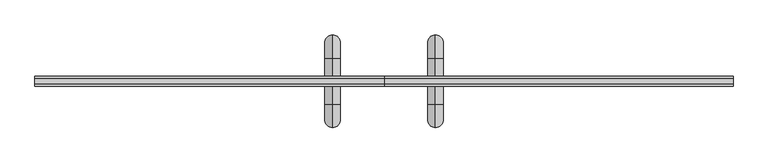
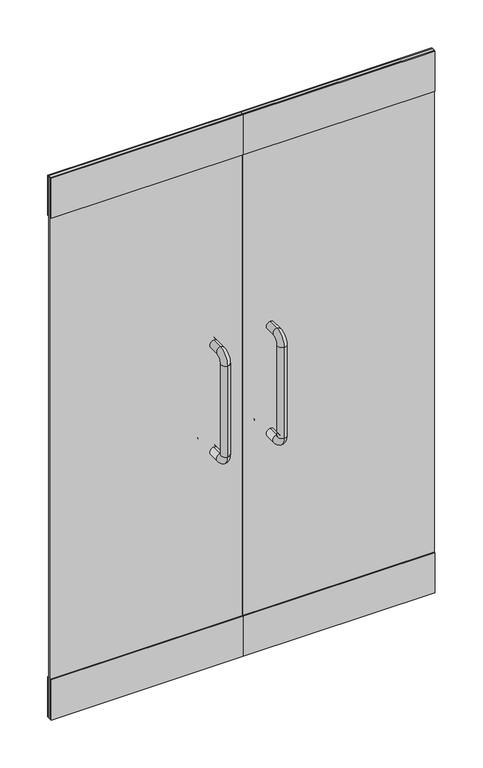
"""IFC4 building model written with IfcOpenShell, lengths in millimetres: plate geometry, 両開き - ヒンジ2 : ガラス パネル."""

from ifc_helpers import new_model, si_unit, point, frame, origin, origin_with_axes, place, context, project, spatial, polyline, circle_curve, ellipse_curve, trimmed, outline, extrude, source, transform, mapped, element, save
from ifc_brep_helpers import cylinder_surface, revolved_surface, advanced_brep


def plate_e66cd56a(model_context):
    return source(origin(), model_context, "Body", "SolidModel", [
        advanced_brep(
        [(100.0, 60.0, 830.0), (100.0, 45.0, 815.0), (100.0, 45.0, 785.0), (100.0, 90.0, 830.0), (100.0, 90.0, 1170.0), (100.0, 60.0, 1170.0), (100.0, 45.0, 1185.0), (100.0, 45.0, 1215.0), (100.0, -45.0, 1215.0), (100.0, -45.0, 1185.0), (100.0, -60.0, 1170.0), (100.0, -90.0, 1170.0), (100.0, -90.0, 830.0), (100.0, -60.0, 830.0), (100.0, -45.0, 815.0), (100.0, -45.0, 785.0)],
        [
            (0, 1, circle_curve(frame((100.0, 45.0, 830.0), z_axis=(-1.0, 0.0, 0.0), x_axis=(0.0, 0.0, -1.0)), 15.0)),
            (1, 2, circle_curve(frame((100.0, 45.0, 800.0), z_axis=(0.0, 1.0, 0.0), x_axis=(0.0, 0.0, 1.0)), 15.0)),
            (2, 3, circle_curve(frame((100.0, 45.0, 830.0), z_axis=(1.0, 0.0, 0.0), x_axis=(0.0, 0.0, -1.0)), 45.0)),
            (3, 0, circle_curve(frame((100.0, 75.0, 830.0), z_axis=(0.0, 0.0, -1.0), x_axis=(0.0, -1.0, 0.0)), 15.0)),
            (2, 1, circle_curve(frame((100.0, 45.0, 800.0), z_axis=(0.0, 1.0, 0.0), x_axis=(0.0, 0.0, 1.0)), 15.0)),
            (0, 3, circle_curve(frame((100.0, 75.0, 830.0), z_axis=(0.0, 0.0, -1.0), x_axis=(0.0, -1.0, 0.0)), 15.0)),
            (3, 4),
            (4, 5, circle_curve(frame((100.0, 75.0, 1170.0), z_axis=(0.0, 0.0, -1.0), x_axis=(0.0, -1.0, 0.0)), 15.0)),
            (5, 0),
            (5, 4, circle_curve(frame((100.0, 75.0, 1170.0), z_axis=(0.0, 0.0, -1.0), x_axis=(0.0, -1.0, 0.0)), 15.0)),
            (6, 5, circle_curve(frame((100.0, 45.0, 1170.0), z_axis=(-1.0, 0.0, 0.0), x_axis=(0.0, 1.0, 0.0)), 15.0)),
            (4, 7, circle_curve(frame((100.0, 45.0, 1170.0), z_axis=(1.0, 0.0, 0.0), x_axis=(0.0, 1.0, 0.0)), 45.0)),
            (7, 6, circle_curve(frame((100.0, 45.0, 1200.0), z_axis=(0.0, 1.0, 0.0), x_axis=(0.0, 0.0, -1.0)), 15.0)),
            (6, 7, circle_curve(frame((100.0, 45.0, 1200.0), z_axis=(0.0, 1.0, 0.0), x_axis=(0.0, 0.0, -1.0)), 15.0)),
            (7, 8),
            (8, 9, circle_curve(frame((100.0, -45.0, 1200.0), z_axis=(0.0, 1.0, 0.0), x_axis=(0.0, 0.0, -1.0)), 15.0)),
            (9, 6),
            (9, 8, circle_curve(frame((100.0, -45.0, 1200.0), z_axis=(0.0, 1.0, 0.0), x_axis=(0.0, 0.0, -1.0)), 15.0)),
            (10, 9, circle_curve(frame((100.0, -45.0, 1170.0), z_axis=(-1.0, 0.0, 0.0), x_axis=(0.0, 0.0, 1.0)), 15.0)),
            (8, 11, circle_curve(frame((100.0, -45.0, 1170.0), z_axis=(1.0, 0.0, 0.0), x_axis=(0.0, 0.0, 1.0)), 45.0)),
            (11, 10, circle_curve(frame((100.0, -75.0, 1170.0), z_axis=(0.0, 0.0, 1.0), x_axis=(0.0, 1.0, 0.0)), 15.0)),
            (10, 11, circle_curve(frame((100.0, -75.0, 1170.0), z_axis=(0.0, 0.0, 1.0), x_axis=(0.0, 1.0, 0.0)), 15.0)),
            (11, 12),
            (12, 13, circle_curve(frame((100.0, -75.0, 830.0), z_axis=(0.0, 0.0, 1.0), x_axis=(0.0, 1.0, 0.0)), 15.0)),
            (13, 10),
            (13, 12, circle_curve(frame((100.0, -75.0, 830.0), z_axis=(0.0, 0.0, 1.0), x_axis=(0.0, 1.0, 0.0)), 15.0)),
            (14, 13, circle_curve(frame((100.0, -45.0, 830.0), z_axis=(-1.0, 0.0, 0.0), x_axis=(0.0, -1.0, 0.0)), 15.0)),
            (12, 15, circle_curve(frame((100.0, -45.0, 830.0), z_axis=(1.0, 0.0, 0.0), x_axis=(0.0, -1.0, 0.0)), 45.0)),
            (15, 14, circle_curve(frame((100.0, -45.0, 800.0), z_axis=(0.0, -1.0, 0.0), x_axis=(0.0, 0.0, 1.0)), 15.0)),
            (14, 15, circle_curve(frame((100.0, -45.0, 800.0), z_axis=(0.0, -1.0, 0.0), x_axis=(0.0, 0.0, 1.0)), 15.0)),
            (15, 2),
            (1, 14),
        ],
        [
            revolved_surface(trimmed(ellipse_curve(frame((100.0, 45.0, 800.0), z_axis=(0.0, -1.0, 0.0), x_axis=(0.0, 0.0, 1.0)), 15.0, 15.0), [point((100.0, 45.0, 785.0))], [point((100.0, 45.0, 815.0))], True, "CARTESIAN"), (100.0, 45.0, 830.0), (1.0, 0.0, 0.0)),
            revolved_surface(trimmed(ellipse_curve(frame((100.0, 45.0, 800.0), z_axis=(0.0, -1.0, 0.0), x_axis=(0.0, 0.0, 1.0)), 15.0, 15.0), [point((100.0, 45.0, 815.0))], [point((100.0, 45.0, 785.0))], True, "CARTESIAN"), (100.0, 45.0, 830.0), (1.0, 0.0, 0.0)),
            cylinder_surface(frame((100.0, 75.0, 830.0), z_axis=(0.0, 0.0, -1.0), x_axis=(0.0, -1.0, 0.0)), 15.0),
            revolved_surface(trimmed(ellipse_curve(frame((100.0, 75.0, 1170.0), z_axis=(0.0, 0.0, -1.0), x_axis=(0.0, -1.0, 0.0)), 15.0, 15.0), [point((100.0, 90.0, 1170.0))], [point((100.0, 60.0, 1170.0))], True, "CARTESIAN"), (100.0, 45.0, 1170.0), (1.0, 0.0, 0.0)),
            revolved_surface(trimmed(ellipse_curve(frame((100.0, 75.0, 1170.0), z_axis=(0.0, 0.0, -1.0), x_axis=(0.0, -1.0, 0.0)), 15.0, 15.0), [point((100.0, 60.0, 1170.0))], [point((100.0, 90.0, 1170.0))], True, "CARTESIAN"), (100.0, 45.0, 1170.0), (1.0, 0.0, 0.0)),
            cylinder_surface(frame((100.0, 45.0, 1200.0), z_axis=(0.0, 1.0, 0.0), x_axis=(0.0, 0.0, -1.0)), 15.0),
            revolved_surface(trimmed(ellipse_curve(frame((100.0, -45.0, 1200.0), z_axis=(0.0, 1.0, 0.0), x_axis=(0.0, 0.0, -1.0)), 15.0, 15.0), [point((100.0, -45.0, 1215.0))], [point((100.0, -45.0, 1185.0))], True, "CARTESIAN"), (100.0, -45.0, 1170.0), (1.0, 0.0, 0.0)),
            revolved_surface(trimmed(ellipse_curve(frame((100.0, -45.0, 1200.0), z_axis=(0.0, 1.0, 0.0), x_axis=(0.0, 0.0, -1.0)), 15.0, 15.0), [point((100.0, -45.0, 1185.0))], [point((100.0, -45.0, 1215.0))], True, "CARTESIAN"), (100.0, -45.0, 1170.0), (1.0, 0.0, 0.0)),
            cylinder_surface(frame((100.0, -75.0, 1170.0), z_axis=(0.0, 0.0, 1.0), x_axis=(0.0, 1.0, 0.0)), 15.0),
            revolved_surface(trimmed(ellipse_curve(frame((100.0, -75.0, 830.0), z_axis=(0.0, 0.0, 1.0), x_axis=(0.0, 1.0, 0.0)), 15.0, 15.0), [point((100.0, -90.0, 830.0))], [point((100.0, -60.0, 830.0))], True, "CARTESIAN"), (100.0, -45.0, 830.0), (1.0, 0.0, 0.0)),
            revolved_surface(trimmed(ellipse_curve(frame((100.0, -75.0, 830.0), z_axis=(0.0, 0.0, 1.0), x_axis=(0.0, 1.0, 0.0)), 15.0, 15.0), [point((100.0, -60.0, 830.0))], [point((100.0, -90.0, 830.0))], True, "CARTESIAN"), (100.0, -45.0, 830.0), (1.0, 0.0, 0.0)),
            cylinder_surface(frame((100.0, -45.0, 800.0), z_axis=(0.0, -1.0, 0.0), x_axis=(0.0, 0.0, 1.0)), 15.0),
        ],
        [
            (0, [[1, 2, 3, 4]]),
            (1, [[-3, 5, -1, 6]]),
            (2, [[-4, 7, 8, 9]]),
            (2, [[-6, -9, 10, -7]]),
            (3, [[11, -8, 12, 13]]),
            (4, [[-12, -10, -11, 14]]),
            (5, [[-13, 15, 16, 17]]),
            (5, [[-14, -17, 18, -15]]),
            (6, [[19, -16, 20, 21]]),
            (7, [[-20, -18, -19, 22]]),
            (8, [[-21, 23, 24, 25]]),
            (8, [[-22, -25, 26, -23]]),
            (9, [[27, -24, 28, 29]]),
            (10, [[-28, -26, -27, 30]]),
            (11, [[-29, 31, -2, 32]]),
            (11, [[-30, -32, -5, -31]]),
        ],
    ),
        advanced_brep(
        [(-100.0, 60.0, 830.0), (-100.0, 45.0, 815.0), (-100.0, 45.0, 785.0), (-100.0, 90.0, 830.0), (-100.0, 90.0, 1170.0), (-100.0, 60.0, 1170.0), (-100.0, 45.0, 1185.0), (-100.0, 45.0, 1215.0), (-100.0, -45.0, 1215.0), (-100.0, -45.0, 1185.0), (-100.0, -60.0, 1170.0), (-100.0, -90.0, 1170.0), (-100.0, -90.0, 830.0), (-100.0, -60.0, 830.0), (-100.0, -45.0, 815.0), (-100.0, -45.0, 785.0)],
        [
            (0, 1, circle_curve(frame((-100.0, 45.0, 830.0), z_axis=(-1.0, 0.0, 0.0), x_axis=(0.0, 0.0, -1.0)), 15.0)),
            (1, 2, circle_curve(frame((-100.0, 45.0, 800.0), z_axis=(0.0, 1.0, 0.0), x_axis=(0.0, 0.0, 1.0)), 15.0)),
            (2, 3, circle_curve(frame((-100.0, 45.0, 830.0), z_axis=(1.0, 0.0, 0.0), x_axis=(0.0, 0.0, -1.0)), 45.0)),
            (3, 0, circle_curve(frame((-100.0, 75.0, 830.0), z_axis=(0.0, 0.0, -1.0), x_axis=(0.0, -1.0, 0.0)), 15.0)),
            (2, 1, circle_curve(frame((-100.0, 45.0, 800.0), z_axis=(0.0, 1.0, 0.0), x_axis=(0.0, 0.0, 1.0)), 15.0)),
            (0, 3, circle_curve(frame((-100.0, 75.0, 830.0), z_axis=(0.0, 0.0, -1.0), x_axis=(0.0, -1.0, 0.0)), 15.0)),
            (3, 4),
            (4, 5, circle_curve(frame((-100.0, 75.0, 1170.0), z_axis=(0.0, 0.0, -1.0), x_axis=(0.0, -1.0, 0.0)), 15.0)),
            (5, 0),
            (5, 4, circle_curve(frame((-100.0, 75.0, 1170.0), z_axis=(0.0, 0.0, -1.0), x_axis=(0.0, -1.0, 0.0)), 15.0)),
            (6, 5, circle_curve(frame((-100.0, 45.0, 1170.0), z_axis=(-1.0, 0.0, 0.0), x_axis=(0.0, 1.0, 0.0)), 15.0)),
            (4, 7, circle_curve(frame((-100.0, 45.0, 1170.0), z_axis=(1.0, 0.0, 0.0), x_axis=(0.0, 1.0, 0.0)), 45.0)),
            (7, 6, circle_curve(frame((-100.0, 45.0, 1200.0), z_axis=(0.0, 1.0, 0.0), x_axis=(0.0, 0.0, -1.0)), 15.0)),
            (6, 7, circle_curve(frame((-100.0, 45.0, 1200.0), z_axis=(0.0, 1.0, 0.0), x_axis=(0.0, 0.0, -1.0)), 15.0)),
            (7, 8),
            (8, 9, circle_curve(frame((-100.0, -45.0, 1200.0), z_axis=(0.0, 1.0, 0.0), x_axis=(0.0, 0.0, -1.0)), 15.0)),
            (9, 6),
            (9, 8, circle_curve(frame((-100.0, -45.0, 1200.0), z_axis=(0.0, 1.0, 0.0), x_axis=(0.0, 0.0, -1.0)), 15.0)),
            (10, 9, circle_curve(frame((-100.0, -45.0, 1170.0), z_axis=(-1.0, 0.0, 0.0), x_axis=(0.0, 0.0, 1.0)), 15.0)),
            (8, 11, circle_curve(frame((-100.0, -45.0, 1170.0), z_axis=(1.0, 0.0, 0.0), x_axis=(0.0, 0.0, 1.0)), 45.0)),
            (11, 10, circle_curve(frame((-100.0, -75.0, 1170.0), z_axis=(0.0, 0.0, 1.0), x_axis=(0.0, 1.0, 0.0)), 15.0)),
            (10, 11, circle_curve(frame((-100.0, -75.0, 1170.0), z_axis=(0.0, 0.0, 1.0), x_axis=(0.0, 1.0, 0.0)), 15.0)),
            (11, 12),
            (12, 13, circle_curve(frame((-100.0, -75.0, 830.0), z_axis=(0.0, 0.0, 1.0), x_axis=(0.0, 1.0, 0.0)), 15.0)),
            (13, 10),
            (13, 12, circle_curve(frame((-100.0, -75.0, 830.0), z_axis=(0.0, 0.0, 1.0), x_axis=(0.0, 1.0, 0.0)), 15.0)),
            (14, 13, circle_curve(frame((-100.0, -45.0, 830.0), z_axis=(-1.0, 0.0, 0.0), x_axis=(0.0, -1.0, 0.0)), 15.0)),
            (12, 15, circle_curve(frame((-100.0, -45.0, 830.0), z_axis=(1.0, 0.0, 0.0), x_axis=(0.0, -1.0, 0.0)), 45.0)),
            (15, 14, circle_curve(frame((-100.0, -45.0, 800.0), z_axis=(0.0, -1.0, 0.0), x_axis=(0.0, 0.0, 1.0)), 15.0)),
            (14, 15, circle_curve(frame((-100.0, -45.0, 800.0), z_axis=(0.0, -1.0, 0.0), x_axis=(0.0, 0.0, 1.0)), 15.0)),
            (15, 2),
            (1, 14),
        ],
        [
            revolved_surface(trimmed(ellipse_curve(frame((-100.0, 45.0, 800.0), z_axis=(0.0, -1.0, 0.0), x_axis=(0.0, 0.0, 1.0)), 15.0, 15.0), [point((-100.0, 45.0, 785.0))], [point((-100.0, 45.0, 815.0))], True, "CARTESIAN"), (-100.0, 45.0, 830.0), (1.0, 0.0, 0.0)),
            revolved_surface(trimmed(ellipse_curve(frame((-100.0, 45.0, 800.0), z_axis=(0.0, -1.0, 0.0), x_axis=(0.0, 0.0, 1.0)), 15.0, 15.0), [point((-100.0, 45.0, 815.0))], [point((-100.0, 45.0, 785.0))], True, "CARTESIAN"), (-100.0, 45.0, 830.0), (1.0, 0.0, 0.0)),
            cylinder_surface(frame((-100.0, 75.0, 830.0), z_axis=(0.0, 0.0, -1.0), x_axis=(0.0, -1.0, 0.0)), 15.0),
            revolved_surface(trimmed(ellipse_curve(frame((-100.0, 75.0, 1170.0), z_axis=(0.0, 0.0, -1.0), x_axis=(0.0, -1.0, 0.0)), 15.0, 15.0), [point((-100.0, 90.0, 1170.0))], [point((-100.0, 60.0, 1170.0))], True, "CARTESIAN"), (-100.0, 45.0, 1170.0), (1.0, 0.0, 0.0)),
            revolved_surface(trimmed(ellipse_curve(frame((-100.0, 75.0, 1170.0), z_axis=(0.0, 0.0, -1.0), x_axis=(0.0, -1.0, 0.0)), 15.0, 15.0), [point((-100.0, 60.0, 1170.0))], [point((-100.0, 90.0, 1170.0))], True, "CARTESIAN"), (-100.0, 45.0, 1170.0), (1.0, 0.0, 0.0)),
            cylinder_surface(frame((-100.0, 45.0, 1200.0), z_axis=(0.0, 1.0, 0.0), x_axis=(0.0, 0.0, -1.0)), 15.0),
            revolved_surface(trimmed(ellipse_curve(frame((-100.0, -45.0, 1200.0), z_axis=(0.0, 1.0, 0.0), x_axis=(0.0, 0.0, -1.0)), 15.0, 15.0), [point((-100.0, -45.0, 1215.0))], [point((-100.0, -45.0, 1185.0))], True, "CARTESIAN"), (-100.0, -45.0, 1170.0), (1.0, 0.0, 0.0)),
            revolved_surface(trimmed(ellipse_curve(frame((-100.0, -45.0, 1200.0), z_axis=(0.0, 1.0, 0.0), x_axis=(0.0, 0.0, -1.0)), 15.0, 15.0), [point((-100.0, -45.0, 1185.0))], [point((-100.0, -45.0, 1215.0))], True, "CARTESIAN"), (-100.0, -45.0, 1170.0), (1.0, 0.0, 0.0)),
            cylinder_surface(frame((-100.0, -75.0, 1170.0), z_axis=(0.0, 0.0, 1.0), x_axis=(0.0, 1.0, 0.0)), 15.0),
            revolved_surface(trimmed(ellipse_curve(frame((-100.0, -75.0, 830.0), z_axis=(0.0, 0.0, 1.0), x_axis=(0.0, 1.0, 0.0)), 15.0, 15.0), [point((-100.0, -90.0, 830.0))], [point((-100.0, -60.0, 830.0))], True, "CARTESIAN"), (-100.0, -45.0, 830.0), (1.0, 0.0, 0.0)),
            revolved_surface(trimmed(ellipse_curve(frame((-100.0, -75.0, 830.0), z_axis=(0.0, 0.0, 1.0), x_axis=(0.0, 1.0, 0.0)), 15.0, 15.0), [point((-100.0, -60.0, 830.0))], [point((-100.0, -90.0, 830.0))], True, "CARTESIAN"), (-100.0, -45.0, 830.0), (1.0, 0.0, 0.0)),
            cylinder_surface(frame((-100.0, -45.0, 800.0), z_axis=(0.0, -1.0, 0.0), x_axis=(0.0, 0.0, 1.0)), 15.0),
        ],
        [
            (0, [[1, 2, 3, 4]]),
            (1, [[-3, 5, -1, 6]]),
            (2, [[-4, 7, 8, 9]]),
            (2, [[-6, -9, 10, -7]]),
            (3, [[11, -8, 12, 13]]),
            (4, [[-12, -10, -11, 14]]),
            (5, [[-13, 15, 16, 17]]),
            (5, [[-14, -17, 18, -15]]),
            (6, [[19, -16, 20, 21]]),
            (7, [[-20, -18, -19, 22]]),
            (8, [[-21, 23, 24, 25]]),
            (8, [[-22, -25, 26, -23]]),
            (9, [[27, -24, 28, 29]]),
            (10, [[-28, -26, -27, 30]]),
            (11, [[-29, 31, -2, 32]]),
            (11, [[-30, -32, -5, -31]]),
        ],
    ),
        extrude(outline(polyline([(0.0, -5.0), (-679.1666667, -5.0), (-679.1666667, 5.0), (0.0, 5.0), (0.0, -5.0)])), origin_with_axes(), (0.0, 0.0, 1.0), 2025.0),
        extrude(outline(polyline([(0.0, -10.0), (-679.1666667, -10.0), (-679.1666667, 10.0), (0.0, 10.0), (0.0, -10.0)])), frame((0.0, 0.0, 1875.0), z_axis=(0.0, 0.0, 1.0), x_axis=(1.0, 0.0, 0.0)), (0.0, 0.0, 1.0), 150.0),
        extrude(outline(polyline([(0.0, -10.0), (-679.1666667, -10.0), (-679.1666667, 10.0), (0.0, 10.0), (0.0, -10.0)])), origin_with_axes(), (0.0, 0.0, 1.0), 150.0),
        extrude(outline(polyline([(0.0, 5.0), (679.1666667, 5.0), (679.1666667, -5.0), (0.0, -5.0), (0.0, 5.0)])), origin_with_axes(), (0.0, 0.0, 1.0), 2025.0),
        extrude(outline(polyline([(679.1666667, -10.0), (0.0, -10.0), (0.0, 10.0), (679.1666667, 10.0), (679.1666667, -10.0)])), frame((0.0, 0.0, 1875.0), z_axis=(0.0, 0.0, 1.0), x_axis=(1.0, 0.0, 0.0)), (0.0, 0.0, 1.0), 150.0),
        extrude(outline(polyline([(679.1666667, -10.0), (0.0, -10.0), (0.0, 10.0), (679.1666667, 10.0), (679.1666667, -10.0)])), origin_with_axes(), (0.0, 0.0, 1.0), 150.0),
    ])


if __name__ == "__main__":
    model = new_model("IFC4")
    model_context = context("Model", 3, world=origin())
    ifc_project = project(units=[si_unit("LENGTHUNIT", "METRE", prefix="MILLI")], contexts=[model_context])
    site = spatial("IfcSite", under=ifc_project)
    building = spatial("IfcBuilding", under=site)
    placement = place(None, origin())
    plate_shape = plate_e66cd56a(model_context)
    element("IfcPlate", 1, ObjectType="両開き - ヒンジ2 : ガラス パネル", at=placement, inside=building, context=model_context, shape_type="MappedRepresentation", body=[
        mapped(plate_shape, transform((0.0, 0.0, 0.0), x_axis=(1.0, 0.0, 0.0), y_axis=(0.0, 1.0, 0.0), z_axis=(0.0, 0.0, 1.0))),
    ])
    save(model, "model.ifc")
